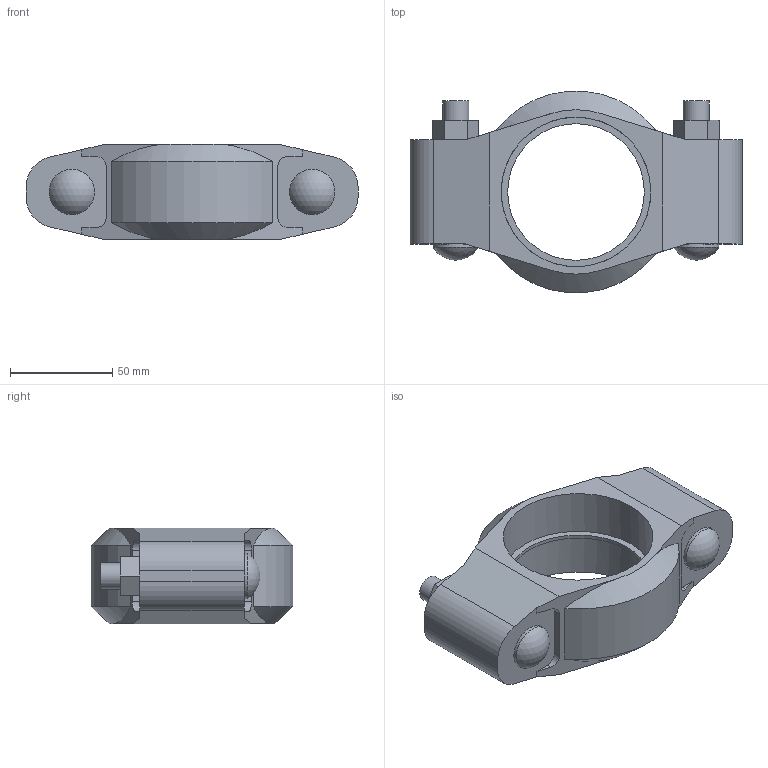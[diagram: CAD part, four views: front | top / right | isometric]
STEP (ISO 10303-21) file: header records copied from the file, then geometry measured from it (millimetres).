
FILE_DESCRIPTION(/* description */ ('VIC COUPLING STYLE 07 RIGID','CAx-IF Rec.Pracs.---Representation and Presentation of Product Manufacturing Information (PMI)---4.0---2014-10-13'),/* implementation_level */ '2;1');
FILE_NAME(/* name */ 'C:\Users\kkamble\Desktop\KIRAN\2022\Updated Couplings\007\Victaulic_IPS_Coupling Rigid_Style 07 (OGS)\Victaulic_IPS_Coupling Rigid_Style 07 (OGS)_2.5 (65).stp',/* time_stamp */ '2022-03-25T09:56:18+05:00',/* author */ ('jheald'),/* organization */ ('Victaulic'),/* preprocessor_version */ 'ST-DEVELOPER v17.2',/* originating_system */ 'Autodesk Inventor 2019',/* authorisation */ '');
FILE_SCHEMA (('AP242_MANAGED_MODEL_BASED_3D_ENGINEERING_MIM_LF { 1 0 10303 442 1 1 4 }'));
Length unit declared in the file: inch
Products named in the file (1): 07-02.5
Bounding box: 162.05 x 98.21 x 46.74 mm (x, y, z)
Volume: 274313.7 mm3; surface area: 54915.8 mm2
Topology: 1 solids, 3 shells, 87 faces, 239 edges, 162 vertices
Faces by surface type: plane 54, cylinder 27, cone 4, sphere 2
Full cylindrical faces by diameter (mm): 12.7 x4, 22.225 x2, 66.675 x1, 73.025 x2
Entity records: 3036 total; most frequent: CARTESIAN_POINT 522, DIRECTION 507, ORIENTED_EDGE 478, EDGE_CURVE 239, AXIS2_PLACEMENT_3D 175, VERTEX_POINT 162, LINE 157, VECTOR 157
